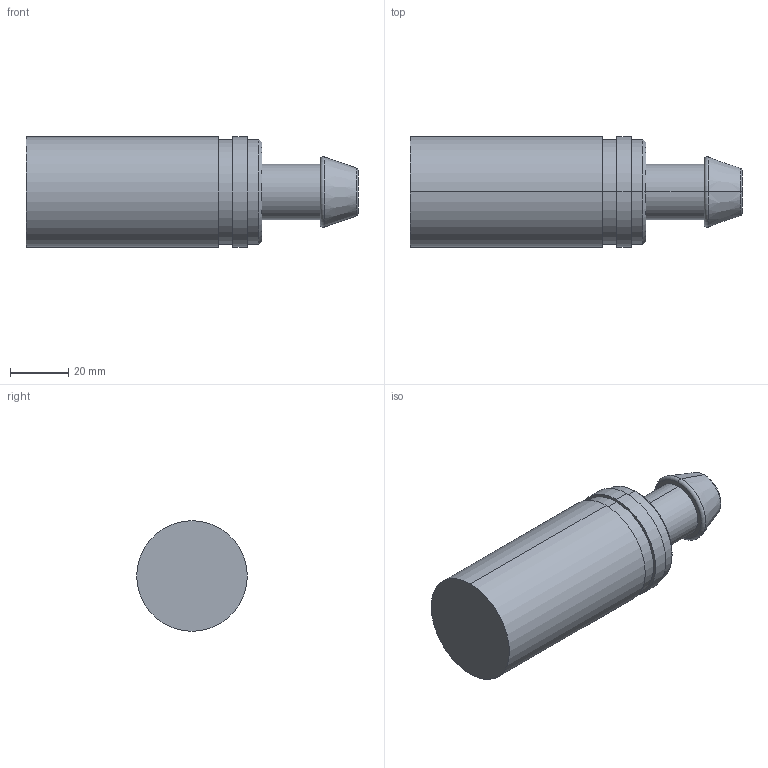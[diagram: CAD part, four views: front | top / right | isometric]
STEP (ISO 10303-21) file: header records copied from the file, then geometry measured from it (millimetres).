
FILE_DESCRIPTION (( 'STEP AP214' ), '1' );
FILE_NAME ('BR601.16 HGB 19.STEP', '2020-12-02T14:00:09', ( '' ), ( '' ), 'SwSTEP 2.0', 'SolidWorks 2018', '' );
FILE_SCHEMA (( 'AUTOMOTIVE_DESIGN' ));
Length unit declared in the file: millimetre
Products named in the file (1): BR601.16 HGB 19
Bounding box: 114 x 38 x 38 mm (x, y, z)
Volume: 100636.8 mm3; surface area: 14163.9 mm2
Topology: 1 solids, 1 shells, 25 faces, 48 edges, 30 vertices
Faces by surface type: cylinder 10, plane 7, cone 4, torus 4
Entity records: 682 total; most frequent: DIRECTION 134, CARTESIAN_POINT 104, ORIENTED_EDGE 96, AXIS2_PLACEMENT_3D 60, EDGE_CURVE 48, CIRCLE 34, VERTEX_POINT 30, EDGE_LOOP 30
